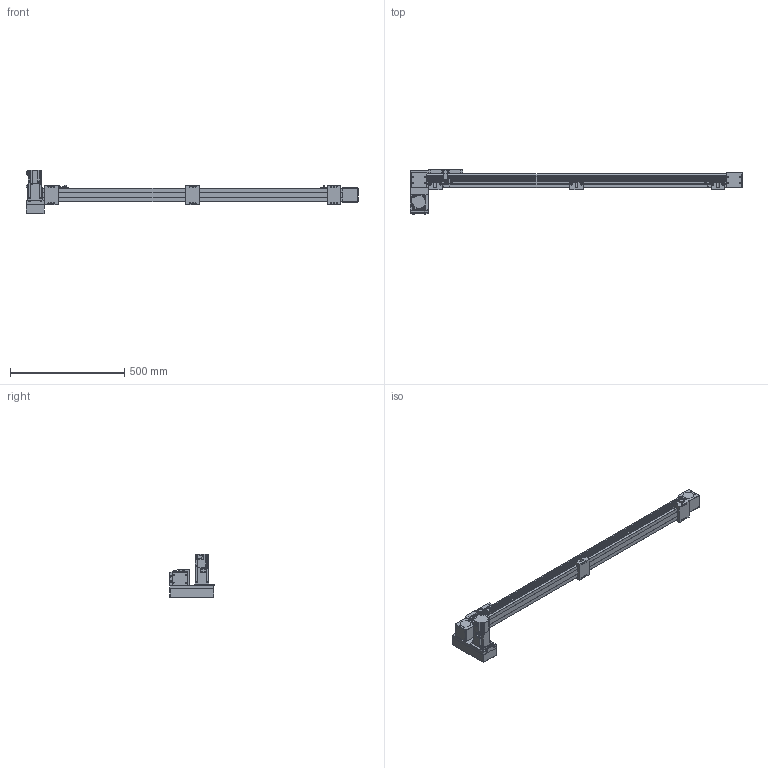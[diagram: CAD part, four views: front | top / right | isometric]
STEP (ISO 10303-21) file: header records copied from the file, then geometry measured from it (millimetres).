
FILE_DESCRIPTION(/* description */ ('STEP AP214'),/* implementation_level */ '2;1');
FILE_NAME(/* name */ 'SK60-P13-S1150-LD-T40-C1-N(0)',/* time_stamp */ '2023-04-06T04:38:50+02:00',/* author */ ('License CC BY-ND 4.0'),/* organization */ ('CADENAS'),/* preprocessor_version */ 'ST-DEVELOPER v19.3',/* originating_system */ 'PARTsolutions',/* authorisation */ ' ');
FILE_SCHEMA (('AUTOMOTIVE_DESIGN {1 0 10303 214 3 1 1}'));
Length unit declared in the file: millimetre
Products named in the file (10): SK60-P13-S1150-LD-T40-C1-N(0); PSC140-sensor; SK60-S450_seat; SK60-S450-BL-C1_slider; SK60_body3; SK60_body6; SK60-BL_body2; T40-p1; SK60-LD_fb; SK60-S1150-LD-C1_body
Assembly tree (17 placements, depth 2):
  SK60-P13-S1150-LD-T40-C1-N(0)
    PSC140-sensor  x3
    SK60-S450_seat  x3
    SK60-S450-BL-C1_slider
    SK60_body3  x3
    SK60_body6  x2
    SK60-BL_body2  x2
    T40-p1
    SK60-LD_fb
    SK60-S1150-LD-C1_body
Bounding box: 1455.5 x 199 x 189.7 mm (x, y, z)
Volume: 6155299.9 mm3; surface area: 767453 mm2
Topology: 17 solids, 17 shells, 854 faces, 2146 edges, 1413 vertices
Faces by surface type: plane 548, cylinder 278, cone 26, torus 2
Full cylindrical faces by diameter (mm): 2.8 x3, 3.3 x4, 4 x2, 4.5 x30, 4.6 x3, 4.917 x20, 5 x6, 5.478 x4, 5.5 x23, 6.5 x6, 7 x2, 8 x4, 8.5 x4, 9.988 x4, 10 x12, 14 x1, 47 x3, 50 x2
Entity records: 18663 total; most frequent: DIRECTION 3186, CARTESIAN_POINT 3151, ORIENTED_EDGE 2940, EDGE_CURVE 1470, AXIS2_PLACEMENT_3D 1069, LINE 1048, VECTOR 1048, VERTEX_POINT 1034
